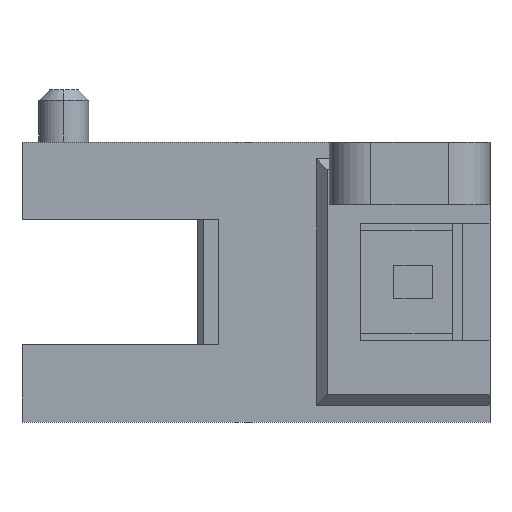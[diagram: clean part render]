
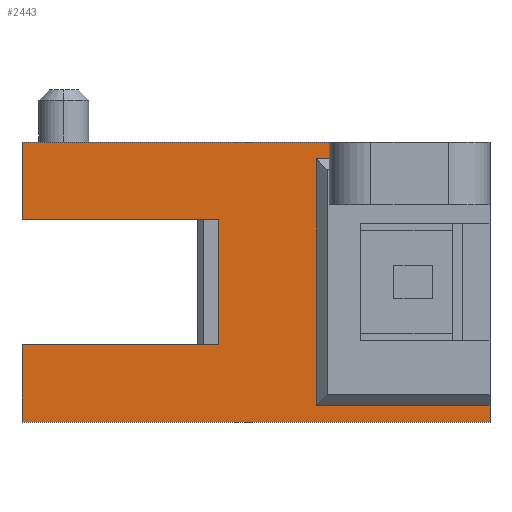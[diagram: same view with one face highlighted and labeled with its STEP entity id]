
A CAD part, left-side view. The second image highlights one B-rep face of the part: STEP entity #2443.
In plain terms, the highlighted planar face has unit normal (-1, 0, 0).
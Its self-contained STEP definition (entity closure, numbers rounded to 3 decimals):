
#8 = CARTESIAN_POINT ( 'NONE',  ( -3., -12.1, -2.9 ) ) ;
#9 = DIRECTION ( 'NONE',  ( 0., -1., 0. ) ) ;
#12 = CARTESIAN_POINT ( 'NONE',  ( -3., 2., 0. ) ) ;
#13 = DIRECTION ( 'NONE',  ( 0., 0., 1. ) ) ;
#97 = CARTESIAN_POINT ( 'NONE',  ( -3., -12.1, 8.9 ) ) ;
#98 = DIRECTION ( 'NONE',  ( 0., -1., 0. ) ) ;
#124 = CARTESIAN_POINT ( 'NONE',  ( -3., -20.4, 9.7 ) ) ;
#125 = DIRECTION ( 'NONE',  ( 0., -1., 0. ) ) ;
#245 = CARTESIAN_POINT ( 'NONE',  ( -3., -7.4, 6. ) ) ;
#246 = DIRECTION ( 'NONE',  ( 0., 0., -1. ) ) ;
#261 = CARTESIAN_POINT ( 'NONE',  ( -3., 2., 6. ) ) ;
#262 = DIRECTION ( 'NONE',  ( 0., 1., 0. ) ) ;
#266 = CARTESIAN_POINT ( 'NONE',  ( -3., 2., -3.7 ) ) ;
#267 = DIRECTION ( 'NONE',  ( 0., 1., 0. ) ) ;
#272 = CARTESIAN_POINT ( 'NONE',  ( -3., -20.4, -3.7 ) ) ;
#273 = DIRECTION ( 'NONE',  ( 0., 0., -1. ) ) ;
#276 = CARTESIAN_POINT ( 'NONE',  ( -3., -12.1, 8.9 ) ) ;
#277 = DIRECTION ( 'NONE',  ( 0., 0., 1. ) ) ;
#278 = CARTESIAN_POINT ( 'NONE',  ( -3., -20.4, -3.7 ) ) ;
#279 = DIRECTION ( 'NONE',  ( 0., 0., -1. ) ) ;
#586 = CARTESIAN_POINT ( 'NONE',  ( -3., -6.4, 0. ) ) ;
#587 = DIRECTION ( 'NONE',  ( 0., -1., 0. ) ) ;
#782 = FACE_OUTER_BOUND ( 'NONE', #3082, .T. ) ;
#978 = VECTOR ( 'NONE', #2767, 1000. ) ;
#979 = LINE ( 'NONE', #2766, #978 ) ;
#997 = VECTOR ( 'NONE', #587, 1000. ) ;
#998 = LINE ( 'NONE', #586, #997 ) ;
#1669 = EDGE_CURVE ( 'NONE', #1859, #1858, #998, .T. ) ;
#1679 = EDGE_CURVE ( 'NONE', #1856, #1806, #979, .T. ) ;
#1768 = AXIS2_PLACEMENT_3D ( 'NONE', #3387, #3397, #3398 ) ;
#1806 = VERTEX_POINT ( 'NONE', #2033 ) ;
#1807 = VERTEX_POINT ( 'NONE', #2025 ) ;
#1852 = VERTEX_POINT ( 'NONE', #1991 ) ;
#1853 = VERTEX_POINT ( 'NONE', #1992 ) ;
#1854 = VERTEX_POINT ( 'NONE', #1993 ) ;
#1855 = VERTEX_POINT ( 'NONE', #1994 ) ;
#1856 = VERTEX_POINT ( 'NONE', #1995 ) ;
#1857 = VERTEX_POINT ( 'NONE', #1996 ) ;
#1858 = VERTEX_POINT ( 'NONE', #1997 ) ;
#1859 = VERTEX_POINT ( 'NONE', #1998 ) ;
#1860 = VERTEX_POINT ( 'NONE', #1902 ) ;
#1861 = VERTEX_POINT ( 'NONE', #1903 ) ;
#1902 = CARTESIAN_POINT ( 'NONE',  ( -3., 2., -3.7 ) ) ;
#1903 = CARTESIAN_POINT ( 'NONE',  ( -3., -20.4, -3.7 ) ) ;
#1991 = CARTESIAN_POINT ( 'NONE',  ( -3., -12.1, -2.9 ) ) ;
#1992 = CARTESIAN_POINT ( 'NONE',  ( -3., -20.4, -2.9 ) ) ;
#1993 = CARTESIAN_POINT ( 'NONE',  ( -3., -12.1, 8.9 ) ) ;
#1994 = CARTESIAN_POINT ( 'NONE',  ( -3., -20.4, 8.9 ) ) ;
#1995 = CARTESIAN_POINT ( 'NONE',  ( -3., 2., 6. ) ) ;
#1996 = CARTESIAN_POINT ( 'NONE',  ( -3., -7.4, 6. ) ) ;
#1997 = CARTESIAN_POINT ( 'NONE',  ( -3., -7.4, 0. ) ) ;
#1998 = CARTESIAN_POINT ( 'NONE',  ( -3., 2., 0. ) ) ;
#2025 = CARTESIAN_POINT ( 'NONE',  ( -3., -20.4, 9.7 ) ) ;
#2033 = CARTESIAN_POINT ( 'NONE',  ( -3., 2., 9.7 ) ) ;
#2076 = VECTOR ( 'NONE', #125, 1000. ) ;
#2088 = LINE ( 'NONE', #124, #2076 ) ;
#2091 = VECTOR ( 'NONE', #98, 1000. ) ;
#2092 = LINE ( 'NONE', #97, #2091 ) ;
#2163 = VECTOR ( 'NONE', #13, 1000. ) ;
#2164 = LINE ( 'NONE', #12, #2163 ) ;
#2167 = VECTOR ( 'NONE', #9, 1000. ) ;
#2168 = LINE ( 'NONE', #8, #2167 ) ;
#2177 = VECTOR ( 'NONE', #279, 1000. ) ;
#2178 = LINE ( 'NONE', #278, #2177 ) ;
#2179 = VECTOR ( 'NONE', #277, 1000. ) ;
#2180 = LINE ( 'NONE', #276, #2179 ) ;
#2183 = VECTOR ( 'NONE', #273, 1000. ) ;
#2184 = LINE ( 'NONE', #272, #2183 ) ;
#2189 = VECTOR ( 'NONE', #267, 1000. ) ;
#2190 = LINE ( 'NONE', #266, #2189 ) ;
#2193 = VECTOR ( 'NONE', #262, 1000. ) ;
#2194 = LINE ( 'NONE', #261, #2193 ) ;
#2209 = VECTOR ( 'NONE', #246, 1000. ) ;
#2210 = LINE ( 'NONE', #245, #2209 ) ;
#2443 = ADVANCED_FACE ( 'NONE', ( #782 ), #3392, .F. ) ;
#2595 = EDGE_CURVE ( 'NONE', #1857, #1858, #2210, .T. ) ;
#2603 = EDGE_CURVE ( 'NONE', #1857, #1856, #2194, .T. ) ;
#2605 = EDGE_CURVE ( 'NONE', #1861, #1860, #2190, .T. ) ;
#2608 = EDGE_CURVE ( 'NONE', #1853, #1861, #2184, .T. ) ;
#2610 = EDGE_CURVE ( 'NONE', #1852, #1854, #2180, .T. ) ;
#2611 = EDGE_CURVE ( 'NONE', #1807, #1855, #2178, .T. ) ;
#2616 = EDGE_CURVE ( 'NONE', #1852, #1853, #2168, .T. ) ;
#2618 = EDGE_CURVE ( 'NONE', #1860, #1859, #2164, .T. ) ;
#2657 = EDGE_CURVE ( 'NONE', #1854, #1855, #2092, .T. ) ;
#2669 = EDGE_CURVE ( 'NONE', #1806, #1807, #2088, .T. ) ;
#2766 = CARTESIAN_POINT ( 'NONE',  ( -3., 2., 9.7 ) ) ;
#2767 = DIRECTION ( 'NONE',  ( 0., 0., 1. ) ) ;
#3082 = EDGE_LOOP ( 'NONE', ( #3308, #3307, #3306, #3305, #3304, #3303, #3302, #3301, #3300, #3299, #3298, #3297 ) ) ;
#3297 = ORIENTED_EDGE ( 'NONE', *, *, #2608, .F. ) ;
#3298 = ORIENTED_EDGE ( 'NONE', *, *, #2605, .F. ) ;
#3299 = ORIENTED_EDGE ( 'NONE', *, *, #2618, .F. ) ;
#3300 = ORIENTED_EDGE ( 'NONE', *, *, #1669, .F. ) ;
#3301 = ORIENTED_EDGE ( 'NONE', *, *, #2595, .T. ) ;
#3302 = ORIENTED_EDGE ( 'NONE', *, *, #2603, .F. ) ;
#3303 = ORIENTED_EDGE ( 'NONE', *, *, #1679, .F. ) ;
#3304 = ORIENTED_EDGE ( 'NONE', *, *, #2669, .F. ) ;
#3305 = ORIENTED_EDGE ( 'NONE', *, *, #2611, .F. ) ;
#3306 = ORIENTED_EDGE ( 'NONE', *, *, #2657, .T. ) ;
#3307 = ORIENTED_EDGE ( 'NONE', *, *, #2610, .T. ) ;
#3308 = ORIENTED_EDGE ( 'NONE', *, *, #2616, .F. ) ;
#3387 = CARTESIAN_POINT ( 'NONE',  ( -3., -6.4, 0. ) ) ;
#3392 = PLANE ( 'NONE',  #1768 ) ;
#3397 = DIRECTION ( 'NONE',  ( 1., 0., 0. ) ) ;
#3398 = DIRECTION ( 'NONE',  ( 0., 0., -1. ) ) ;
